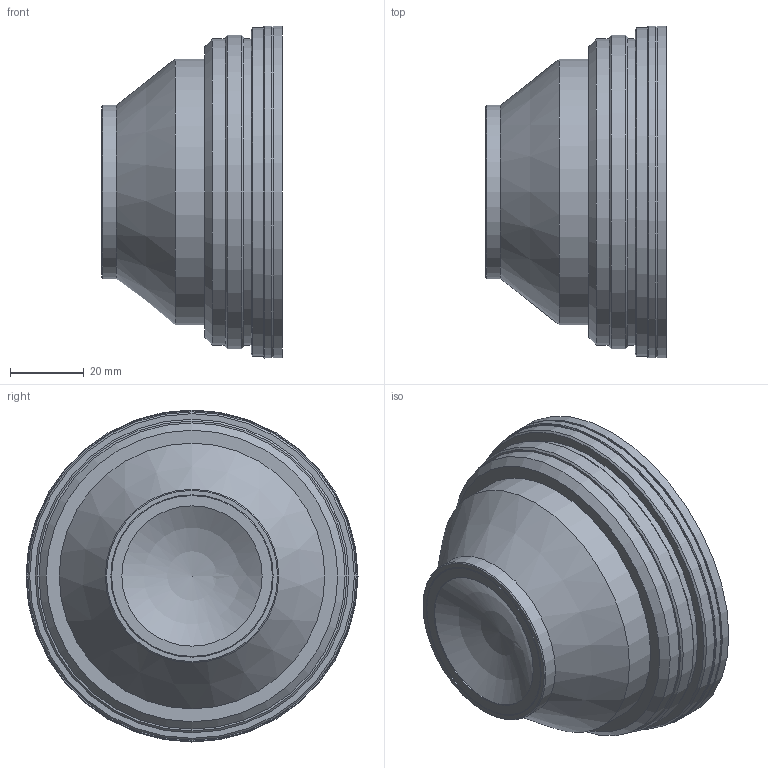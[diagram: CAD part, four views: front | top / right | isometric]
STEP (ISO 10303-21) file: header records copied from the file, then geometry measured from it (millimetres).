
FILE_DESCRIPTION(/* description */ (''),/* implementation_level */ '2;1');
FILE_NAME(/* name */ 'f-254B-1064.stp',/* time_stamp */ '2022-11-28T14:39:45+08:00',/* author */ (''),/* organization */ (''),/* preprocessor_version */ 'ST-DEVELOPER v14',/* originating_system */ 'SIEMENS PLM Software NX 8.0',/* authorisation */ '');
FILE_SCHEMA (('AUTOMOTIVE_DESIGN { 1 0 10303 214 3 1 1 1 }'));
Length unit declared in the file: millimetre
Products named in the file (1): 254_dwg
Bounding box: 49 x 90 x 90 mm (x, y, z)
Volume: 186281.8 mm3; surface area: 45091.2 mm2
Topology: 4 solids, 4 shells, 39 faces, 62 edges, 39 vertices
Faces by surface type: plane 16, cylinder 13, cone 9, sphere 1
Full cylindrical faces by diameter (mm): 38 x1, 44 x2, 47 x1, 72 x1, 83 x2, 84 x2, 85 x1, 89 x1, 90 x2
Entity records: 798 total; most frequent: DIRECTION 152, CARTESIAN_POINT 112, AXIS2_PLACEMENT_3D 76, EDGE_LOOP 72, ORIENTED_EDGE 72, FACE_BOUND 66, ADVANCED_FACE 39, VERTEX_POINT 36
